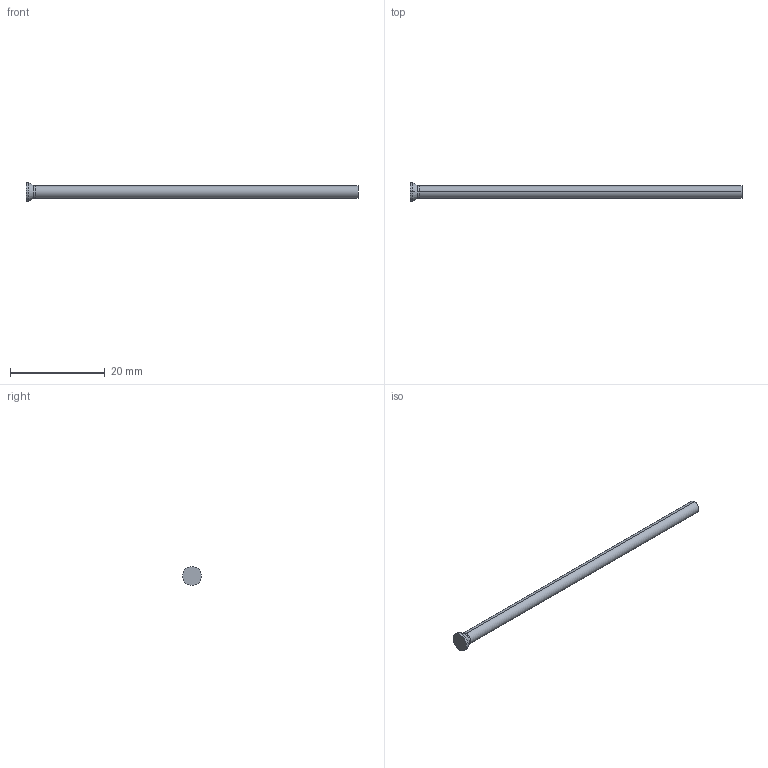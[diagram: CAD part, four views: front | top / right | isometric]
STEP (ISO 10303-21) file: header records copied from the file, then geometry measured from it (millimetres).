
FILE_DESCRIPTION (( 'STEP AP214' ), '1' );
FILE_NAME ('D-2,6x70.STEP', '2020-06-08T10:07:43', ( 'August' ), ( '' ), 'SwSTEP 2.0', 'SolidWorks 2018', '' );
FILE_SCHEMA (( 'AUTOMOTIVE_DESIGN' ));
Length unit declared in the file: millimetre
Products named in the file (1): D-2,6x70
Bounding box: 70 x 4 x 4 mm (x, y, z)
Volume: 379.4 mm3; surface area: 596.4 mm2
Topology: 1 solids, 1 shells, 10 faces, 18 edges, 10 vertices
Faces by surface type: cylinder 4, torus 2, cone 2, plane 2
Entity records: 280 total; most frequent: DIRECTION 52, CARTESIAN_POINT 39, ORIENTED_EDGE 36, AXIS2_PLACEMENT_3D 23, EDGE_CURVE 18, CIRCLE 12, ADVANCED_FACE 10, VERTEX_POINT 10
